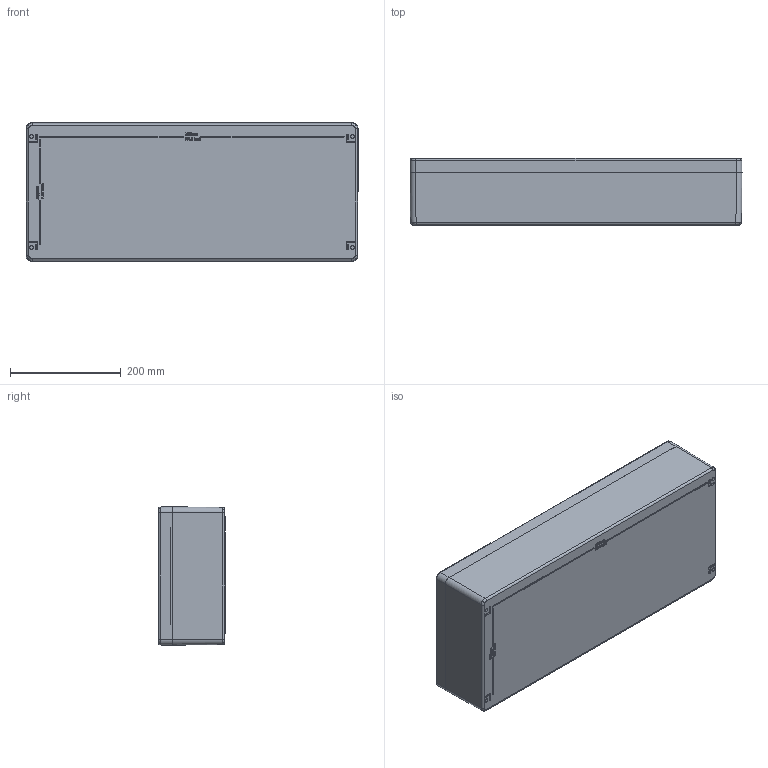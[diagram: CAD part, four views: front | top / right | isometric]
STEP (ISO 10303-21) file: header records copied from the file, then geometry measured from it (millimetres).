
FILE_DESCRIPTION (( 'STEP AP203' ), '1' );
FILE_NAME ('GRP ASSY 600250120.STEP', '2024-08-26T12:05:38', ( '' ), ( '' ), 'SwSTEP 2.0', 'SolidWorks 2018', '' );
FILE_SCHEMA (( 'CONFIG_CONTROL_DESIGN' ));
Length unit declared in the file: millimetre
Products named in the file (5): GRP ASSY 600250120; GRP BASE 600250120; M6 SS TOP INSERT; GRP LID 600250120; M6 BOTTOM INSERT
Assembly tree (14 placements, depth 2):
  GRP ASSY 600250120
    GRP BASE 600250120
    GRP LID 600250120
    M6 SS TOP INSERT  x6
    M6 BOTTOM INSERT  x6
Bounding box: 600 x 121 x 250 mm (x, y, z)
Volume: 2997194.4 mm3; surface area: 1017741.6 mm2
Topology: 14 solids, 14 shells, 1718 faces, 4188 edges, 2575 vertices
Faces by surface type: plane 514, bspline 494, cylinder 401, cone 247, torus 62
Entity records: 65247 total; most frequent: CARTESIAN_POINT 37474, ORIENTED_EDGE 6308, DIRECTION 4485, EDGE_CURVE 3154, VERTEX_POINT 1945, AXIS2_PLACEMENT_3D 1571, EDGE_LOOP 1409, VECTOR 1343
